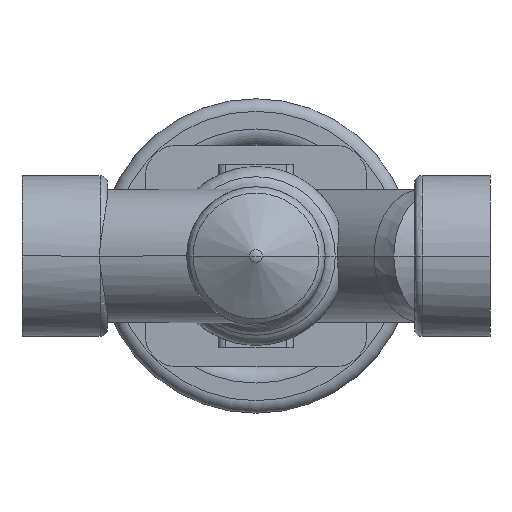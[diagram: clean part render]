
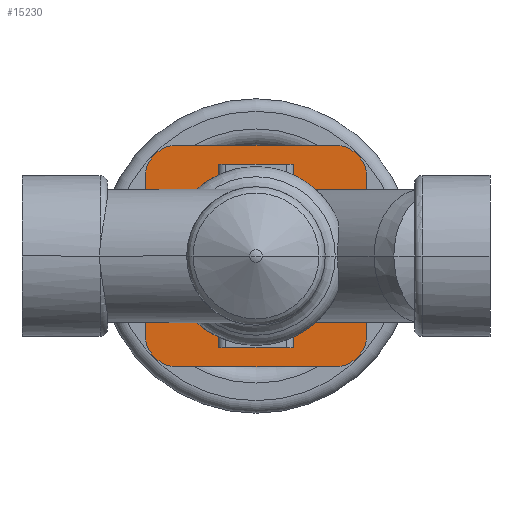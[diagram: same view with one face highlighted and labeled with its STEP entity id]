
A CAD part, front view. The second image highlights one B-rep face of the part: STEP entity #15230.
In plain terms, the highlighted planar face has unit normal (0, -1, 0).
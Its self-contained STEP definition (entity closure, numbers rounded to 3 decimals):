
#200=CARTESIAN_POINT('',(78.,56.5,-36.5));
#210=VERTEX_POINT('',#200);
#240=CARTESIAN_POINT('',(78.,56.5,18.25));
#250=DIRECTION('',(0.,0.,1.));
#260=VECTOR('',#250,1.);
#270=LINE('',#240,#260);
#280=CARTESIAN_POINT('',(78.,56.5,-32.175));
#290=VERTEX_POINT('',#280);
#300=EDGE_CURVE('',#210,#290,#270,.T.);
#3360=CARTESIAN_POINT('',(78.,56.5,32.175));
#3370=VERTEX_POINT('',#3360);
#3990=CARTESIAN_POINT('',(108.,56.5,32.175));
#4000=VERTEX_POINT('',#3990);
#4030=CARTESIAN_POINT('',(93.,56.5,0.));
#4040=DIRECTION('',(0.,1.,0.));
#4050=DIRECTION('',(1.,0.,0.));
#4060=AXIS2_PLACEMENT_3D('',#4030,#4040,#4050);
#4070=CIRCLE('',#4060,35.5);
#4080=CARTESIAN_POINT('',(118.775,56.5,24.411));
#4090=VERTEX_POINT('',#4080);
#4100=EDGE_CURVE('',#4000,#4090,#4070,.T.);
#5050=CARTESIAN_POINT('',(57.5,56.5,0.));
#5060=VERTEX_POINT('',#5050);
#5090=CARTESIAN_POINT('',(93.,56.5,0.));
#5100=DIRECTION('',(0.,1.,0.));
#5110=DIRECTION('',(1.,0.,0.));
#5120=AXIS2_PLACEMENT_3D('',#5090,#5100,#5110);
#5130=CIRCLE('',#5120,35.5);
#5140=EDGE_CURVE('',#5060,#3370,#5130,.T.);
#10570=CARTESIAN_POINT('',(137.113,56.5,-12.24));
#10580=VERTEX_POINT('',#10570);
#10610=CARTESIAN_POINT('',(104.439,56.5,0.));
#10620=DIRECTION('',(0.,1.,0.));
#10630=DIRECTION('',(-1.,0.,0.));
#10640=AXIS2_PLACEMENT_3D('',#10610,#10620,#10630);
#10650=ELLIPSE('',#10640,36.839,26.5);
#10660=CARTESIAN_POINT('',(118.775,56.5,-24.411));
#10670=VERTEX_POINT('',#10660);
#10680=EDGE_CURVE('',#10580,#10670,#10650,.T.);
#12270=CARTESIAN_POINT('',(108.,56.5,-36.5));
#12280=VERTEX_POINT('',#12270);
#12310=CARTESIAN_POINT('',(116.375,56.5,-36.5));
#12320=DIRECTION('',(-1.,0.,0.));
#12330=VECTOR('',#12320,1.);
#12340=LINE('',#12310,#12330);
#12350=EDGE_CURVE('',#12280,#210,#12340,.T.);
#13890=CARTESIAN_POINT('',(139.75,56.5,0.));
#13900=DIRECTION('',(0.,-1.,0.));
#13910=DIRECTION('',(-1.,0.,0.));
#13920=AXIS2_PLACEMENT_3D('',#13890,#13900,#13910);
#13930=PLANE('',#13920);
#13940=CARTESIAN_POINT('',(137.113,56.5,-15.556));
#13950=DIRECTION('',(0.,0.,1.));
#13960=VECTOR('',#13950,1.);
#13970=LINE('',#13940,#13960);
#13980=CARTESIAN_POINT('',(137.113,56.5,-31.113));
#13990=VERTEX_POINT('',#13980);
#14000=EDGE_CURVE('',#13990,#10580,#13970,.T.);
#14010=ORIENTED_EDGE('',*,*,#14000,.T.);
#14020=CARTESIAN_POINT('',(124.113,56.5,-31.113));
#14030=DIRECTION('',(0.,-1.,0.));
#14040=DIRECTION('',(1.,0.,0.));
#14050=AXIS2_PLACEMENT_3D('',#14020,#14030,#14040);
#14060=CIRCLE('',#14050,13.);
#14070=CARTESIAN_POINT('',(124.113,56.5,-44.113));
#14080=VERTEX_POINT('',#14070);
#14090=EDGE_CURVE('',#14080,#13990,#14060,.T.);
#14100=ORIENTED_EDGE('',*,*,#14090,.T.);
#14110=CARTESIAN_POINT('',(100.819,56.5,-44.113));
#14120=DIRECTION('',(1.,0.,0.));
#14130=VECTOR('',#14120,1.);
#14140=LINE('',#14110,#14130);
#14150=CARTESIAN_POINT('',(61.887,56.5,-44.113));
#14160=VERTEX_POINT('',#14150);
#14170=EDGE_CURVE('',#14160,#14080,#14140,.T.);
#14180=ORIENTED_EDGE('',*,*,#14170,.T.);
#14190=CARTESIAN_POINT('',(61.887,56.5,-31.113));
#14200=DIRECTION('',(0.,-1.,0.));
#14210=DIRECTION('',(0.,0.,-1.));
#14220=AXIS2_PLACEMENT_3D('',#14190,#14200,#14210);
#14230=CIRCLE('',#14220,13.);
#14240=CARTESIAN_POINT('',(48.887,56.5,-31.113));
#14250=VERTEX_POINT('',#14240);
#14260=EDGE_CURVE('',#14250,#14160,#14230,.T.);
#14270=ORIENTED_EDGE('',*,*,#14260,.T.);
#14280=CARTESIAN_POINT('',(48.887,56.5,15.556));
#14290=DIRECTION('',(0.,0.,-1.));
#14300=VECTOR('',#14290,1.);
#14310=LINE('',#14280,#14300);
#14320=CARTESIAN_POINT('',(48.887,56.5,31.113));
#14330=VERTEX_POINT('',#14320);
#14340=EDGE_CURVE('',#14330,#14250,#14310,.T.);
#14350=ORIENTED_EDGE('',*,*,#14340,.T.);
#14360=CARTESIAN_POINT('',(61.887,56.5,31.113));
#14370=DIRECTION('',(0.,-1.,0.));
#14380=DIRECTION('',(-1.,0.,0.));
#14390=AXIS2_PLACEMENT_3D('',#14360,#14370,#14380);
#14400=CIRCLE('',#14390,13.);
#14410=CARTESIAN_POINT('',(61.887,56.5,44.113));
#14420=VERTEX_POINT('',#14410);
#14430=EDGE_CURVE('',#14420,#14330,#14400,.T.);
#14440=ORIENTED_EDGE('',*,*,#14430,.T.);
#14450=CARTESIAN_POINT('',(131.931,56.5,44.113));
#14460=DIRECTION('',(-1.,0.,0.));
#14470=VECTOR('',#14460,1.);
#14480=LINE('',#14450,#14470);
#14490=CARTESIAN_POINT('',(124.113,56.5,44.113));
#14500=VERTEX_POINT('',#14490);
#14510=EDGE_CURVE('',#14500,#14420,#14480,.T.);
#14520=ORIENTED_EDGE('',*,*,#14510,.T.);
#14530=CARTESIAN_POINT('',(124.113,56.5,31.113));
#14540=DIRECTION('',(0.,-1.,0.));
#14550=DIRECTION('',(0.,0.,1.));
#14560=AXIS2_PLACEMENT_3D('',#14530,#14540,#14550);
#14570=CIRCLE('',#14560,13.);
#14580=CARTESIAN_POINT('',(137.113,56.5,31.113));
#14590=VERTEX_POINT('',#14580);
#14600=EDGE_CURVE('',#14590,#14500,#14570,.T.);
#14610=ORIENTED_EDGE('',*,*,#14600,.T.);
#14620=CARTESIAN_POINT('',(137.113,56.5,-15.556));
#14630=DIRECTION('',(0.,0.,1.));
#14640=VECTOR('',#14630,1.);
#14650=LINE('',#14620,#14640);
#14660=CARTESIAN_POINT('',(137.113,56.5,12.24));
#14670=VERTEX_POINT('',#14660);
#14680=EDGE_CURVE('',#14670,#14590,#14650,.T.);
#14690=ORIENTED_EDGE('',*,*,#14680,.T.);
#14700=CARTESIAN_POINT('',(104.439,56.5,0.));
#14710=DIRECTION('',(0.,1.,0.));
#14720=DIRECTION('',(-1.,0.,0.));
#14730=AXIS2_PLACEMENT_3D('',#14700,#14710,#14720);
#14740=ELLIPSE('',#14730,36.839,26.5);
#14750=EDGE_CURVE('',#4090,#14670,#14740,.T.);
#14760=ORIENTED_EDGE('',*,*,#14750,.T.);
#14770=ORIENTED_EDGE('',*,*,#4100,.T.);
#14780=CARTESIAN_POINT('',(108.,56.5,18.25));
#14790=DIRECTION('',(0.,0.,-1.));
#14800=VECTOR('',#14790,1.);
#14810=LINE('',#14780,#14800);
#14820=CARTESIAN_POINT('',(108.,56.5,36.5));
#14830=VERTEX_POINT('',#14820);
#14840=EDGE_CURVE('',#14830,#4000,#14810,.T.);
#14850=ORIENTED_EDGE('',*,*,#14840,.T.);
#14860=CARTESIAN_POINT('',(116.375,56.5,36.5));
#14870=DIRECTION('',(1.,0.,0.));
#14880=VECTOR('',#14870,1.);
#14890=LINE('',#14860,#14880);
#14900=CARTESIAN_POINT('',(78.,56.5,36.5));
#14910=VERTEX_POINT('',#14900);
#14920=EDGE_CURVE('',#14910,#14830,#14890,.T.);
#14930=ORIENTED_EDGE('',*,*,#14920,.T.);
#14940=CARTESIAN_POINT('',(78.,56.5,18.25));
#14950=DIRECTION('',(0.,0.,1.));
#14960=VECTOR('',#14950,1.);
#14970=LINE('',#14940,#14960);
#14980=EDGE_CURVE('',#3370,#14910,#14970,.T.);
#14990=ORIENTED_EDGE('',*,*,#14980,.T.);
#15000=ORIENTED_EDGE('',*,*,#5140,.T.);
#15010=EDGE_CURVE('',#290,#5060,#5130,.T.);
#15020=ORIENTED_EDGE('',*,*,#15010,.T.);
#15030=ORIENTED_EDGE('',*,*,#300,.T.);
#15040=ORIENTED_EDGE('',*,*,#12350,.T.);
#15050=CARTESIAN_POINT('',(108.,56.5,18.25));
#15060=DIRECTION('',(0.,0.,-1.));
#15070=VECTOR('',#15060,1.);
#15080=LINE('',#15050,#15070);
#15090=CARTESIAN_POINT('',(108.,56.5,-32.175));
#15100=VERTEX_POINT('',#15090);
#15110=EDGE_CURVE('',#15100,#12280,#15080,.T.);
#15120=ORIENTED_EDGE('',*,*,#15110,.T.);
#15130=CARTESIAN_POINT('',(93.,56.5,0.));
#15140=DIRECTION('',(0.,1.,0.));
#15150=DIRECTION('',(1.,0.,0.));
#15160=AXIS2_PLACEMENT_3D('',#15130,#15140,#15150);
#15170=CIRCLE('',#15160,35.5);
#15180=EDGE_CURVE('',#10670,#15100,#15170,.T.);
#15190=ORIENTED_EDGE('',*,*,#15180,.T.);
#15200=ORIENTED_EDGE('',*,*,#10680,.T.);
#15210=EDGE_LOOP('',(#15200,#15190,#15120,#15040,#15030,#15020,#15000,
#14990,#14930,#14850,#14770,#14760,#14690,#14610,#14520,#14440,#14350,
#14270,#14180,#14100,#14010));
#15220=FACE_OUTER_BOUND('',#15210,.T.);
#15230=ADVANCED_FACE('',(#15220),#13930,.T.);
